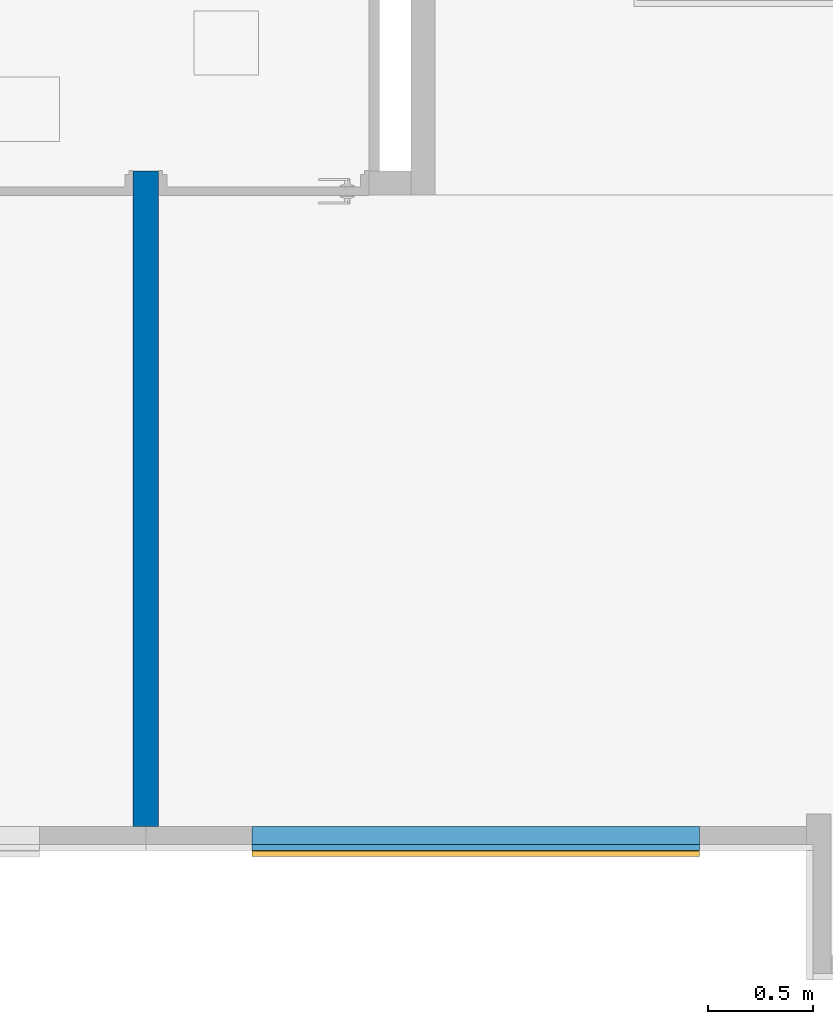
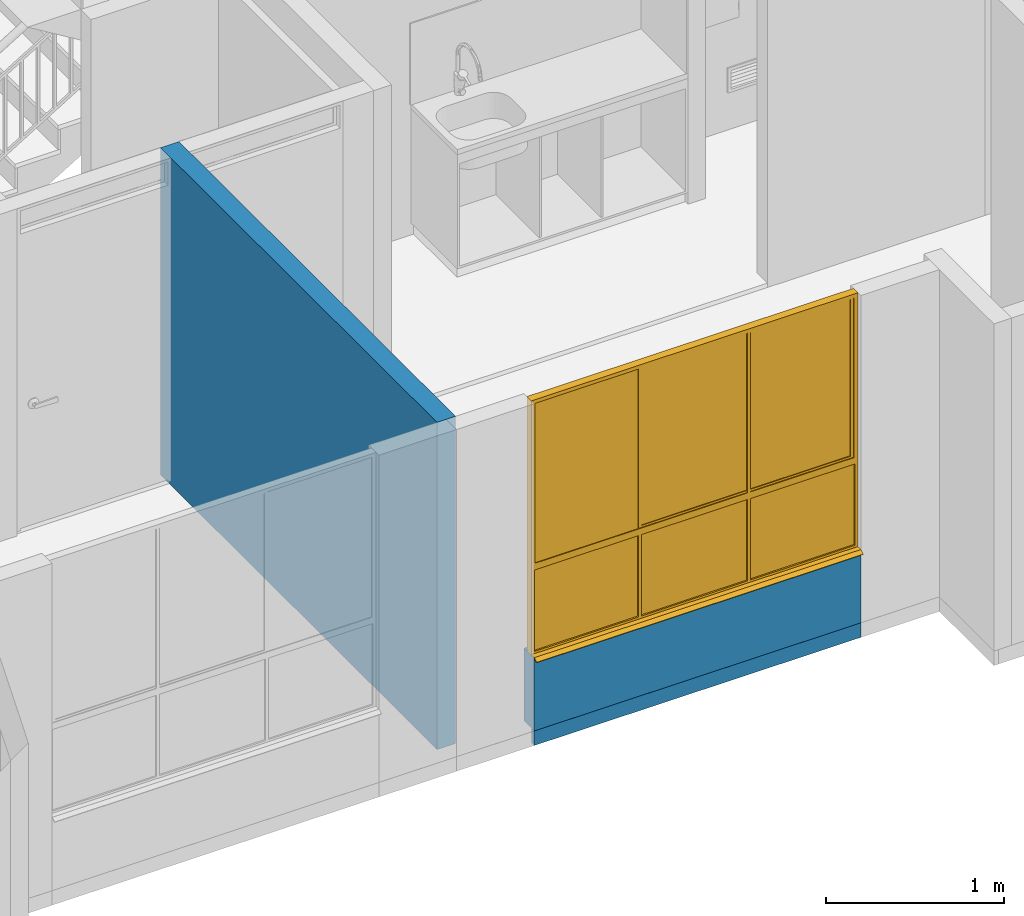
# One storey, part 9 of 48: 3 walls, 1 window, 1 opening.
"""IFC4 building model written with IfcOpenShell, lengths in metres."""

from ifc_helpers import new_model, entity, si_unit, converted_unit, derived_unit, direction, frame, origin, place, context, subcontext, project, spatial, indexed_curve, outline, extrude, polygons, source, transform, mapped, material, constituent, constituent_set, type_object, type_shapes, element, fill, save


model = new_model("IFC4")

# Units and contexts
model_context = context("Model", 3, precision=1e-05, world=origin(), true_north=direction((6.123031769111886e-17, 1.0)))
body_context = subcontext(model_context, "Body", "Model", "MODEL_VIEW")
ifc_project = project(units=[si_unit("LENGTHUNIT", "METRE"), si_unit("AREAUNIT", "SQUARE_METRE"), si_unit("VOLUMEUNIT", "CUBIC_METRE"), converted_unit("PLANEANGLEUNIT", "DEGREE", entity("IfcRatioMeasure", 0.017453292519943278), si_unit("PLANEANGLEUNIT", "RADIAN"), dimensions=[0, 0, 0, 0, 0, 0, 0]), si_unit("MASSUNIT", "GRAM", prefix="KILO"), derived_unit("MASSDENSITYUNIT", [(si_unit("MASSUNIT", "GRAM", prefix="KILO"), 1), (si_unit("LENGTHUNIT", "METRE"), -3)]), derived_unit("IONCONCENTRATIONUNIT", [(si_unit("MASSUNIT", "GRAM", prefix="KILO"), 1), (si_unit("LENGTHUNIT", "METRE"), -3)]), derived_unit("MOMENTOFINERTIAUNIT", [(si_unit("LENGTHUNIT", "METRE"), 4)]), si_unit("TIMEUNIT", "SECOND"), si_unit("FREQUENCYUNIT", "HERTZ"), si_unit("THERMODYNAMICTEMPERATUREUNIT", "DEGREE_CELSIUS"), derived_unit("THERMALTRANSMITTANCEUNIT", [(si_unit("MASSUNIT", "GRAM", prefix="KILO"), 1), (si_unit("THERMODYNAMICTEMPERATUREUNIT", "KELVIN"), -1), (si_unit("TIMEUNIT", "SECOND"), -3)]), derived_unit("THERMALCONDUCTANCEUNIT", [(si_unit("MASSUNIT", "GRAM", prefix="KILO"), 1), (si_unit("THERMODYNAMICTEMPERATUREUNIT", "KELVIN"), -1), (si_unit("TIMEUNIT", "SECOND"), -3), (si_unit("LENGTHUNIT", "METRE"), 1)]), derived_unit("VOLUMETRICFLOWRATEUNIT", [(si_unit("LENGTHUNIT", "METRE"), 3), (si_unit("TIMEUNIT", "SECOND"), -1)]), derived_unit("MASSFLOWRATEUNIT", [(si_unit("MASSUNIT", "GRAM", prefix="KILO"), 1), (si_unit("TIMEUNIT", "SECOND"), -1)]), derived_unit("ROTATIONALFREQUENCYUNIT", [(si_unit("TIMEUNIT", "SECOND"), -1)]), si_unit("ELECTRICCURRENTUNIT", "AMPERE"), si_unit("ELECTRICVOLTAGEUNIT", "VOLT"), si_unit("POWERUNIT", "WATT"), si_unit("FORCEUNIT", "NEWTON", prefix="KILO"), si_unit("ILLUMINANCEUNIT", "LUX"), si_unit("LUMINOUSFLUXUNIT", "LUMEN"), si_unit("LUMINOUSINTENSITYUNIT", "CANDELA"), derived_unit("USERDEFINED", [(si_unit("MASSUNIT", "GRAM", prefix="KILO"), -1), (si_unit("LENGTHUNIT", "METRE"), -2), (si_unit("TIMEUNIT", "SECOND"), 3), (si_unit("LUMINOUSFLUXUNIT", "LUMEN"), 1)]), derived_unit("USERDEFINED", [(si_unit("MASSUNIT", "GRAM", prefix="KILO"), 1), (si_unit("TIMEUNIT", "SECOND"), -3), (si_unit("LENGTHUNIT", "METRE"), 3), (si_unit("ELECTRICCURRENTUNIT", "AMPERE"), -2)]), derived_unit("SOUNDPOWERUNIT", [(si_unit("MASSUNIT", "GRAM", prefix="KILO"), 1), (si_unit("TIMEUNIT", "SECOND"), -3), (si_unit("LENGTHUNIT", "METRE"), 2)]), derived_unit("SOUNDPRESSUREUNIT", [(si_unit("MASSUNIT", "GRAM", prefix="KILO"), 1), (si_unit("LENGTHUNIT", "METRE"), -1), (si_unit("TIMEUNIT", "SECOND"), -2)]), derived_unit("LINEARVELOCITYUNIT", [(si_unit("LENGTHUNIT", "METRE"), 1), (si_unit("TIMEUNIT", "SECOND"), -1)]), si_unit("PRESSUREUNIT", "PASCAL"), derived_unit("USERDEFINED", [(si_unit("MASSUNIT", "GRAM", prefix="KILO"), 1), (si_unit("LENGTHUNIT", "METRE"), -2), (si_unit("TIMEUNIT", "SECOND"), -2)]), derived_unit("LINEARFORCEUNIT", [(si_unit("MASSUNIT", "GRAM", prefix="KILO"), 1), (si_unit("TIMEUNIT", "SECOND"), -2)]), derived_unit("PLANARFORCEUNIT", [(si_unit("MASSUNIT", "GRAM", prefix="KILO"), 1), (si_unit("LENGTHUNIT", "METRE"), -1), (si_unit("TIMEUNIT", "SECOND"), -2)]), derived_unit("SPECIFICHEATCAPACITYUNIT", [(si_unit("THERMODYNAMICTEMPERATUREUNIT", "KELVIN"), -1), (si_unit("LENGTHUNIT", "METRE"), 2), (si_unit("TIMEUNIT", "SECOND"), -2)]), derived_unit("HEATINGVALUEUNIT", [(si_unit("LENGTHUNIT", "METRE"), 2), (si_unit("TIMEUNIT", "SECOND"), -2)]), derived_unit("VAPORPERMEABILITYUNIT", [(si_unit("LENGTHUNIT", "METRE"), -1), (si_unit("TIMEUNIT", "SECOND"), 1)]), derived_unit("DYNAMICVISCOSITYUNIT", [(si_unit("MASSUNIT", "GRAM", prefix="KILO"), 1), (si_unit("TIMEUNIT", "SECOND"), -1), (si_unit("LENGTHUNIT", "METRE"), -1)]), derived_unit("THERMALEXPANSIONCOEFFICIENTUNIT", [(si_unit("THERMODYNAMICTEMPERATUREUNIT", "KELVIN"), -1)]), derived_unit("MODULUSOFELASTICITYUNIT", [(si_unit("MASSUNIT", "GRAM", prefix="KILO"), 1), (si_unit("LENGTHUNIT", "METRE"), -1), (si_unit("TIMEUNIT", "SECOND"), -2)]), derived_unit("ISOTHERMALMOISTURECAPACITYUNIT", [(si_unit("LENGTHUNIT", "METRE"), 3), (si_unit("MASSUNIT", "GRAM", prefix="KILO"), -1)]), derived_unit("MOISTUREDIFFUSIVITYUNIT", [(si_unit("TIMEUNIT", "SECOND"), -1), (si_unit("LENGTHUNIT", "METRE"), 2)])], contexts=[model_context])

# Site, building, storey
site_placement = place(None, origin())
site = spatial("IfcSite", under=ifc_project, at=site_placement, Name="Default", CompositionType="ELEMENT")
building_placement = place(site_placement, origin())
building = spatial("IfcBuilding", under=site, at=building_placement, CompositionType="ELEMENT")
storey_placement = place(building_placement, frame((0.0, 0.0, 7.050000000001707)))
storey = spatial("IfcBuildingStorey", under=building, at=storey_placement, Name="Nivel 4", CompositionType="ELEMENT", Elevation=7.050000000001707)

# Wall
ifc_material_1 = material(Name="Concreto (Aire)", Category="Materials")
wall_type_1 = type_object("IfcWallType", Name="Basic Wall:B2010 - 0.12m - Muro interior en concreto", PredefinedType="STANDARD")
wall_1_placement = place(storey_placement, frame((9.322500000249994, -9.024999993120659, 0.0), z_axis=(0.0, 0.0, 1.0), x_axis=(0.0, -1.0, 0.0)))
element("IfcWall", 1, at=wall_1_placement, inside=storey, type_object=wall_type_1, material=ifc_material_1, Name="Basic Wall:B2010 - 0.12m - Muro interior en concreto", ObjectType="Basic Wall:B2010 - 0.12m - Muro interior en concreto", PredefinedType="NOTDEFINED", context=body_context, shape_type="SweptSolid", body=[
    extrude(outline(indexed_curve([(3.1150000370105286, 0.06000000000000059), (-1.0719303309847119e-16, 0.060000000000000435), (1.0719303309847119e-16, -0.060000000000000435), (3.1150000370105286, -0.06000000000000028), (3.1150000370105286, 0.06000000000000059)], self_intersect=False)), origin(), (0.0, 0.0, 1.0), 2.2500000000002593),
])

# Wall, opening, window
ifc_material_2 = material(Name="Ladrillo claro (Aire)", Category="Materials")
wall_type_2 = type_object("IfcWallType", Name="Basic Wall:B2010 - 0.115m - Muro exterior en mampostería - Ladrillo", PredefinedType="STANDARD")
wall_2_placement = place(storey_placement, frame((11.952500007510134, -12.197500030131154, 0.0), z_axis=(0.0, 0.0, 1.0), x_axis=(-1.0, 0.0, 0.0)))
wall_2 = element("IfcWall", 2, at=wall_2_placement, inside=storey, type_object=wall_type_2, material=ifc_material_2, Name="Basic Wall:B2010 - 0.115m - Muro exterior en mampostería - Ladrillo", ObjectType="Basic Wall:B2010 - 0.115m - Muro exterior en mampostería - Ladrillo", PredefinedType="NOTDEFINED", context=body_context, shape_type="Tessellation", body=[
    polygons([(1.6266871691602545e-15, -0.057499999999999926, 0.0), (2.1249999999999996, -0.057499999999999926, 0.0), (2.1249999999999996, -0.057499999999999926, 0.5000000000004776), (1.6266871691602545e-15, -0.057499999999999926, 0.5000000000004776), (2.1249999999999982, 0.057499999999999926, 0.0), (6.252360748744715e-16, 0.057499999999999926, 0.0), (6.252360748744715e-16, 0.057499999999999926, 0.5000000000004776), (2.1249999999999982, 0.057499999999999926, 0.5000000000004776)], [[[1, 2, 3, 4]], [[5, 6, 7, 8]], [[2, 1, 6, 5]], [[2, 5, 8, 3]], [[6, 1, 4, 7]], [[4, 3, 8, 7]]], closed=True),
])
opening_placement = place(wall_2_placement, frame((0.0, -0.057499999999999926, 0.5)))
opening = element("IfcOpeningElement", 3, at=opening_placement, cuts=wall_2, Name="B2020 - 6c Ventana corrediza - Aluminio + Vidrio:B2020 -2.13m x 1.750m - Ventana corrediza 2C - Aluminio + Vidrio:1", PredefinedType="OPENING", context=body_context, shape_type="SweptSolid", body=[
    extrude(outline(indexed_curve([(0.0, 2.125), (0.0, 0.0), (1.7499999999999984, 0.0), (1.7499999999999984, 2.125), (0.0, 2.125)], self_intersect=False)), frame((0.0, 0.0, 0.0), z_axis=(0.0, 1.0, 0.0), x_axis=(0.0, 0.0, 1.0)), (0.0, 0.0, 1.0), 0.115),
])
ifc_material_3 = material(Name="Aluminio", Category="Materials")
ifc_constituent_1 = constituent(ifc_material_3, Name="Aluminio", Category="Materials")
ifc_material_4 = material(Name="Vidrio", Category="Materials")
ifc_constituent_2 = constituent(ifc_material_4, Name="Vidrio", Category="Materials")
ifc_material_5 = material(Name="Alfajía en aluminio", Category="Materials")
ifc_constituent_3 = constituent(ifc_material_5, Name="Alfajía en aluminio", Category="Materials")
ifc_constituent_set_1 = constituent_set(constituents=[ifc_constituent_1, ifc_constituent_2, ifc_constituent_3])
ifc_constituent_4 = constituent(ifc_material_3, Name="Aluminio", Category="Materials")
ifc_constituent_5 = constituent(ifc_material_4, Name="Vidrio", Category="Materials")
ifc_constituent_6 = constituent(ifc_material_5, Name="Alfajía en aluminio", Category="Materials")
ifc_constituent_set_2 = constituent_set(constituents=[ifc_constituent_4, ifc_constituent_5, ifc_constituent_6])
window_type = type_object("IfcWindowType", Name="B2020 - 6c Ventana corrediza - Aluminio + Vidrio:B2020 -2.13m x 1.750m - Ventana corrediza 2C - Aluminio + Vidrio", PartitioningType="NOTDEFINED", PredefinedType="WINDOW", material=ifc_constituent_set_2)
shared_shape = source(origin(), body_context, "Body", "Tessellation", [
    polygons([(1.3916666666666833, 0.03749999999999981, 1.7249999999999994), (1.3916666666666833, 0.03749999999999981, 0.6249999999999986), (1.391666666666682, 0.032499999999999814, 0.6249999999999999), (1.3916666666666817, 0.032499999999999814, 1.7249999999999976), (-0.6833333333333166, 0.03249999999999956, 0.6249999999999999), (-0.6833333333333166, 0.032499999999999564, 1.7249999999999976), (-0.7083333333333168, 0.03249999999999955, 0.5999999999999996), (1.4166666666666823, 0.032499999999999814, 0.5999999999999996), (1.4166666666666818, 0.032499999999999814, 1.749999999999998), (-0.7083333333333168, 0.03249999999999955, 1.749999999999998), (-0.6833333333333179, 0.03749999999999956, 0.6249999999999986), (-0.6833333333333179, 0.03749999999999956, 1.7249999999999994), (-0.6883333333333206, 0.03749999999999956, 0.6199999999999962), (-0.6883333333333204, 0.03749999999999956, 1.7300000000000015), (1.3966666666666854, 0.03749999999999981, 1.7300000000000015), (1.3966666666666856, 0.03749999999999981, 0.6199999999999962), (1.3966666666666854, 0.05499999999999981, 1.7300000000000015), (1.3966666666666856, 0.05499999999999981, 0.6199999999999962), (-0.6883333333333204, 0.05499999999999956, 0.6199999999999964), (-0.6883333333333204, 0.05499999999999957, 1.7300000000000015), (-0.6833333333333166, 0.05499999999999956, 0.6249999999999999), (-0.6833333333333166, 0.05499999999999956, 1.7249999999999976), (1.3916666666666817, 0.05499999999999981, 1.7249999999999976), (1.391666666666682, 0.05499999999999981, 0.6249999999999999), (1.3916666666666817, 0.05999999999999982, 1.7249999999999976), (1.391666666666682, 0.05999999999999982, 0.6249999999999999), (-0.6833333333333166, 0.059999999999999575, 0.6249999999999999), (-0.6833333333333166, 0.059999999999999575, 1.7249999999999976), (-0.7033333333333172, 0.05999999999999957, 0.6049999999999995), (-0.7033333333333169, 0.05999999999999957, 1.744999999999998), (1.411666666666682, 0.05999999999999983, 1.744999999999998), (1.4116666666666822, 0.05999999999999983, 0.6049999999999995), (1.411666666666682, 0.07749999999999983, 1.744999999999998), (1.4116666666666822, 0.07749999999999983, 0.6049999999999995), (-0.7033333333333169, 0.07749999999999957, 0.6049999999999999), (-0.7033333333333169, 0.07749999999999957, 1.744999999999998), (-0.6833333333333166, 0.07749999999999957, 0.6249999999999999), (-0.6833333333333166, 0.07749999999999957, 1.7249999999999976), (1.3916666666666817, 0.07749999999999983, 1.7249999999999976), (1.391666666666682, 0.07749999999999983, 0.6249999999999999), (1.3916666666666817, 0.08249999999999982, 1.7249999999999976), (1.391666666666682, 0.08249999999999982, 0.6249999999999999), (-0.6833333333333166, 0.08249999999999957, 0.6249999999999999), (-0.6833333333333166, 0.08249999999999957, 1.7249999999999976), (-0.7083333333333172, 0.08249999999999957, 0.5999999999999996), (-0.7083333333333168, 0.08249999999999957, 1.749999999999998), (1.4166666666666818, 0.08249999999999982, 1.749999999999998), (1.4166666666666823, 0.08249999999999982, 0.5999999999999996)], [[[1, 2, 3, 4]], [[7, 8, 9, 10], [5, 6, 4, 3]], [[2, 11, 5, 3]], [[13, 14, 15, 16], [11, 2, 1, 12]], [[17, 18, 16, 15]], [[18, 19, 13, 16]], [[19, 18, 17, 20], [21, 22, 23, 24]], [[25, 26, 24, 23]], [[26, 27, 21, 24]], [[29, 30, 31, 32], [27, 26, 25, 28]], [[33, 34, 32, 31]], [[34, 35, 29, 32]], [[35, 34, 33, 36], [37, 38, 39, 40]], [[41, 42, 40, 39]], [[42, 43, 37, 40]], [[45, 46, 47, 48], [43, 42, 41, 44]], [[9, 8, 48, 47]], [[8, 7, 45, 48]], [[11, 12, 6, 5]], [[19, 20, 14, 13]], [[27, 28, 22, 21]], [[35, 36, 30, 29]], [[43, 44, 38, 37]], [[7, 10, 46, 45]], [[12, 1, 4, 6]], [[20, 17, 15, 14]], [[28, 25, 23, 22]], [[36, 33, 31, 30]], [[44, 41, 39, 38]], [[10, 9, 47, 46]]], closed=True),
    polygons([(-0.009999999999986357, 0.08249999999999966, 0.6249999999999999), (0.010000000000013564, 0.08249999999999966, 0.6249999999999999), (0.010000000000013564, 0.05999999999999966, 0.6249999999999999), (-0.009999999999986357, 0.05999999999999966, 0.6249999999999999), (-0.009999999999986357, 0.08249999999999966, 1.7249999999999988), (-0.009999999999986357, 0.05999999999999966, 1.7249999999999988), (0.010000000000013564, 0.05999999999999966, 1.7249999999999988), (0.010000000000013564, 0.08249999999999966, 1.7249999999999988)], [[[1, 2, 3, 4]], [[5, 1, 4, 6]], [[6, 4, 3, 7]], [[7, 3, 2, 8]], [[8, 2, 1, 5]], [[5, 6, 7, 8]]], closed=True),
    polygons([(0.7108333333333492, 0.06674999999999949, 1.7299999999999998), (-0.6833333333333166, 0.06674999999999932, 1.7299999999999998), (-0.6833333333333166, 0.06674999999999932, 0.6174999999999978), (0.7108333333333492, 0.06674999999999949, 0.6174999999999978), (0.7108333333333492, 0.0707499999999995, 0.6174999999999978), (0.7108333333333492, 0.0707499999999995, 1.7299999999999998), (-0.6833333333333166, 0.07074999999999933, 0.6174999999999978), (-0.6833333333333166, 0.07074999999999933, 1.7299999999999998)], [[[1, 2, 3, 4]], [[4, 5, 6, 1]], [[3, 7, 5, 4]], [[2, 8, 7, 3]], [[6, 5, 7, 8]], [[1, 6, 8, 2]]], closed=True),
    polygons([(0.7108333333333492, 0.07074999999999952, 0.6225000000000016), (-0.6783333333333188, 0.07074999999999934, 0.6225000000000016), (-0.6783333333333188, 0.06674999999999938, 0.6225000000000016), (0.7108333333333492, 0.06674999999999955, 0.6225000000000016), (-0.6783333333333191, 0.07074999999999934, 1.730000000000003), (-0.6783333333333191, 0.06674999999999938, 1.730000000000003), (0.7108333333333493, 0.06674999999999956, 1.730000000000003), (-0.6633333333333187, 0.06674999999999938, 1.7150000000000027), (-0.6633333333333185, 0.06674999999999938, 0.637500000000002), (0.695833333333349, 0.06674999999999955, 0.637500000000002), (0.695833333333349, 0.06674999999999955, 1.7150000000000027), (0.7108333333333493, 0.07074999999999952, 1.730000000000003), (-0.6633333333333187, 0.07074999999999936, 0.637500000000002), (-0.6633333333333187, 0.07074999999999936, 1.7150000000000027), (0.695833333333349, 0.07074999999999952, 1.7150000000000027), (0.695833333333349, 0.07074999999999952, 0.6375000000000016), (0.695833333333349, 0.07549999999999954, 0.637500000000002), (-0.6633333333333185, 0.07549999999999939, 0.6375000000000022), (-0.6633333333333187, 0.07549999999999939, 1.7150000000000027), (0.695833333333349, 0.07549999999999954, 1.7150000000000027), (-0.6833333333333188, 0.07549999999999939, 0.6175000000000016), (-0.683333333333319, 0.07549999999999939, 1.735000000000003), (0.7158333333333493, 0.07549999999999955, 1.735000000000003), (0.7158333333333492, 0.07549999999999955, 0.6175000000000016), (0.7158333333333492, 0.06199999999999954, 0.6175000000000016), (-0.6833333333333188, 0.061999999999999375, 0.6175000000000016), (-0.683333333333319, 0.061999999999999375, 1.735000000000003), (0.7158333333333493, 0.06199999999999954, 1.735000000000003), (-0.6633333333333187, 0.06199999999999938, 0.637500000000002), (-0.6633333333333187, 0.06199999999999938, 1.7150000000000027), (0.695833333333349, 0.06199999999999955, 1.7150000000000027), (0.695833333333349, 0.06199999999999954, 0.6375000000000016)], [[[1, 2, 3, 4]], [[2, 5, 6, 3]], [[3, 6, 7, 4], [8, 9, 10, 11]], [[5, 2, 1, 12], [13, 14, 15, 16]], [[17, 18, 13, 16]], [[18, 19, 14, 13]], [[21, 22, 23, 24], [19, 18, 17, 20]], [[25, 26, 21, 24]], [[26, 27, 22, 21]], [[27, 26, 25, 28], [29, 30, 31, 32]], [[10, 9, 29, 32]], [[9, 8, 30, 29]], [[12, 1, 4, 7]], [[20, 17, 16, 15]], [[28, 25, 24, 23]], [[11, 10, 32, 31]], [[5, 12, 7, 6]], [[19, 20, 15, 14]], [[27, 28, 23, 22]], [[8, 11, 31, 30]]], closed=True),
    polygons([(1.3916666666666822, 0.04424999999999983, 1.7299999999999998), (0.7033333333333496, 0.04424999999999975, 1.7299999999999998), (0.7033333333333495, 0.04424999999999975, 0.6174999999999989), (1.391666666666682, 0.04424999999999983, 0.6174999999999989), (1.391666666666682, 0.04824999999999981, 0.6174999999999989), (1.3916666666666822, 0.04824999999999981, 1.7299999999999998), (0.7033333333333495, 0.048249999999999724, 0.6174999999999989), (0.7033333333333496, 0.048249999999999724, 1.7299999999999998)], [[[1, 2, 3, 4]], [[4, 5, 6, 1]], [[3, 7, 5, 4]], [[2, 8, 7, 3]], [[6, 5, 7, 8]], [[1, 6, 8, 2]]], closed=True),
    polygons([(1.391666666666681, 0.04824999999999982, 0.6224999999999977), (0.7033333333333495, 0.04824999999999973, 0.6224999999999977), (0.7033333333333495, 0.044249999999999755, 0.6224999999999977), (1.391666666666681, 0.04424999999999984, 0.6224999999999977), (0.7033333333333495, 0.04824999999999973, 1.729999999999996), (0.7033333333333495, 0.044249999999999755, 1.729999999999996), (1.391666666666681, 0.04424999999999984, 1.729999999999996), (0.7183333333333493, 0.044249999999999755, 1.714999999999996), (0.7183333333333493, 0.044249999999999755, 0.6374999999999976), (1.3766666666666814, 0.04424999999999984, 0.6374999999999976), (1.3766666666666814, 0.04424999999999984, 1.714999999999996), (1.391666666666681, 0.04824999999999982, 1.729999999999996), (0.7183333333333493, 0.04824999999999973, 0.6374999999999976), (0.7183333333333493, 0.04824999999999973, 1.714999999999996), (1.3766666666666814, 0.04824999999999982, 1.714999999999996), (1.3766666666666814, 0.04824999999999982, 0.6374999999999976), (1.3766666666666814, 0.052999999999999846, 0.6374999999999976), (0.7183333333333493, 0.05299999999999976, 0.6374999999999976), (0.7183333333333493, 0.05299999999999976, 1.714999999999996), (1.3766666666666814, 0.052999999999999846, 1.714999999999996), (0.6983333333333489, 0.052999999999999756, 0.6174999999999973), (0.6983333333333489, 0.05299999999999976, 1.7349999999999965), (1.3966666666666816, 0.052999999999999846, 1.7349999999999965), (1.3966666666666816, 0.052999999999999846, 0.6174999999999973), (1.3966666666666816, 0.03949999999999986, 0.6174999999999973), (0.6983333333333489, 0.03949999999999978, 0.6174999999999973), (0.6983333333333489, 0.03949999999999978, 1.7349999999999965), (1.3966666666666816, 0.03949999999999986, 1.7349999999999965), (0.7183333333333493, 0.039499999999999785, 0.6374999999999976), (0.7183333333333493, 0.03949999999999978, 1.714999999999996), (1.3766666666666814, 0.039499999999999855, 1.714999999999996), (1.3766666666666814, 0.039499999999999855, 0.6374999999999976)], [[[1, 2, 3, 4]], [[2, 5, 6, 3]], [[3, 6, 7, 4], [8, 9, 10, 11]], [[5, 2, 1, 12], [13, 14, 15, 16]], [[17, 18, 13, 16]], [[18, 19, 14, 13]], [[21, 22, 23, 24], [19, 18, 17, 20]], [[25, 26, 21, 24]], [[26, 27, 22, 21]], [[27, 26, 25, 28], [29, 30, 31, 32]], [[10, 9, 29, 32]], [[9, 8, 30, 29]], [[12, 1, 4, 7]], [[20, 17, 16, 15]], [[28, 25, 24, 23]], [[11, 10, 32, 31]], [[5, 12, 7, 6]], [[19, 20, 15, 14]], [[27, 28, 23, 22]], [[8, 11, 31, 30]]], closed=True),
    polygons([(-0.6883333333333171, 0.04424999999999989, 1.7299999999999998), (-0.6883333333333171, 0.04424999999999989, 0.6174999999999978), (1.3916666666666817, 0.04424999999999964, 0.6174999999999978), (1.3916666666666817, 0.04424999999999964, 1.7299999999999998), (1.3916666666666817, 0.04824999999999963, 0.6174999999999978), (1.3916666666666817, 0.04824999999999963, 1.7299999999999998), (-0.6883333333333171, 0.04824999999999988, 0.6174999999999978), (-0.6883333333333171, 0.04824999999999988, 1.7299999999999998)], [[[1, 2, 3, 4]], [[3, 5, 6, 4]], [[2, 7, 5, 3]], [[1, 8, 7, 2]], [[8, 6, 5, 7]], [[4, 6, 8, 1]]], closed=True),
    polygons([(1.3966666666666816, 0.06674999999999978, 1.7299999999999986), (-0.6883333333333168, 0.06674999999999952, 1.7299999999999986), (-0.6883333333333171, 0.06674999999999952, 0.6174999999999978), (1.3966666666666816, 0.06674999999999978, 0.6174999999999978), (1.3966666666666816, 0.07074999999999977, 0.6174999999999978), (1.3966666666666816, 0.07074999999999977, 1.7299999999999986), (-0.6883333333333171, 0.07074999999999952, 0.6174999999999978), (-0.6883333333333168, 0.07074999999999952, 1.7299999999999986)], [[[1, 2, 3, 4]], [[4, 5, 6, 1]], [[3, 7, 5, 4]], [[2, 8, 7, 3]], [[6, 5, 7, 8]], [[1, 6, 8, 2]]], closed=True),
    polygons([(1.3966666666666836, 0.06813901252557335, 0.5800000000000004), (-0.6883333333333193, 0.06813901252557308, 0.5800000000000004), (-0.6883333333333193, 0.06813901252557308, 0.019999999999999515), (1.3966666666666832, 0.06813901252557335, 0.019999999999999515), (1.3966666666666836, 0.07213901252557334, 0.5800000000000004), (1.3966666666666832, 0.07213901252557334, 0.019999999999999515), (-0.6883333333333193, 0.07213901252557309, 0.019999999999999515), (-0.6883333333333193, 0.07213901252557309, 0.5800000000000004)], [[[1, 2, 3, 4]], [[5, 6, 7, 8]], [[4, 6, 5, 1]], [[3, 7, 6, 4]], [[2, 8, 7, 3]], [[1, 5, 8, 2]]], closed=True),
    polygons([(-0.009999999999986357, 0.08250000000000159, 0.5799999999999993), (-0.009999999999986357, 0.03250000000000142, 0.5799999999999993), (0.010000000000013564, 0.03250000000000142, 0.5799999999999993), (0.010000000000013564, 0.08250000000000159, 0.5799999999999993), (-0.009999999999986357, 0.08250000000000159, 0.019999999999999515), (0.010000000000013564, 0.08250000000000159, 0.019999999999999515), (0.010000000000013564, 0.03250000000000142, 0.019999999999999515), (-0.009999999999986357, 0.03250000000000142, 0.019999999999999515)], [[[1, 2, 3, 4]], [[5, 6, 7, 8]], [[4, 6, 5, 1]], [[3, 7, 6, 4]], [[2, 8, 7, 3]], [[1, 5, 8, 2]]], closed=True),
    polygons([(1.4166666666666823, 0.08249999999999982, 2.707167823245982e-16), (-0.7083333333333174, 0.08249999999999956, 4.060751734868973e-16), (-0.7083333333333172, 0.08249999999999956, 0.5999999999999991), (1.4166666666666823, 0.08249999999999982, 0.5999999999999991), (0.6983333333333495, 0.08250000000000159, 0.5799999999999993), (-0.6883333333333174, 0.0825000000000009, 0.5799999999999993), (-0.6883333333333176, 0.0825000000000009, 0.020000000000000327), (0.6983333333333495, 0.08250000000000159, 0.01999999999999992), (0.7183333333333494, 0.08250000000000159, 0.01999999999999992), (1.3966666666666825, 0.08250000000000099, 0.020000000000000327), (1.3966666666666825, 0.08250000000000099, 0.5799999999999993), (0.7183333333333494, 0.08250000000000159, 0.5799999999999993), (0.7183333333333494, 0.03250000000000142, 0.5799999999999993), (0.7183333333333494, 0.03250000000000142, 0.01999999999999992), (1.4166666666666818, 0.03250000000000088, 0.5999999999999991), (-0.7083333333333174, 0.0325000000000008, 0.5999999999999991), (-0.7083333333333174, 0.0325000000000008, 4.060751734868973e-16), (1.4166666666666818, 0.03250000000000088, 4.060751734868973e-16), (1.3966666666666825, 0.032499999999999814, 0.5799999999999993), (1.3966666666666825, 0.032499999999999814, 0.020000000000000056), (0.6983333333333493, 0.03250000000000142, 0.01999999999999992), (-0.6883333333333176, 0.03249999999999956, 0.020000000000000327), (-0.6883333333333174, 0.03249999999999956, 0.5799999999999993), (0.6983333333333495, 0.03250000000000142, 0.5799999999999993)], [[[1, 2, 3, 4], [5, 6, 7, 8], [9, 10, 11, 12]], [[12, 13, 14, 9]], [[15, 16, 17, 18], [13, 19, 20, 14], [21, 22, 23, 24]], [[8, 21, 24, 5]], [[11, 10, 20, 19]], [[15, 18, 1, 4]], [[10, 9, 14, 20]], [[18, 17, 2, 1]], [[7, 6, 23, 22]], [[17, 16, 3, 2]], [[6, 5, 24, 23]], [[4, 3, 16, 15]], [[19, 13, 12, 11]], [[22, 21, 8, 7]]], closed=True),
    polygons([(0.6983333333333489, 0.07213901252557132, 0.5849999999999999), (-0.6883333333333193, 0.07213901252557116, 0.5849999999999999), (-0.6883333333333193, 0.06813901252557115, 0.5849999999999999), (0.6983333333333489, 0.06813901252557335, 0.5849999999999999), (0.6983333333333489, 0.07213901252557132, 0.019999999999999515), (0.6983333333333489, 0.06813901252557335, 0.019999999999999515), (-0.6883333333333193, 0.06813901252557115, 0.019999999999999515), (-0.6883333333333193, 0.07213901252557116, 0.019999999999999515)], [[[1, 2, 3, 4]], [[5, 6, 7, 8]], [[1, 5, 8, 2]], [[2, 8, 7, 3]], [[3, 7, 6, 4]], [[4, 6, 5, 1]]], closed=True),
    polygons([(1.4166666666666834, 0.11499999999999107, -4.060751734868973e-16), (1.416666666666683, 0.1409807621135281, -0.015000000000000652), (1.416666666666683, 0.14348076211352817, -0.010669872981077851), (1.4166666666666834, 0.11633974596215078, 0.0049999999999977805), (1.4166666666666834, 0.08249999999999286, 0.0049999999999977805), (1.4166666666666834, 0.08249999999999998, -4.060751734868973e-16), (-0.7083333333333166, 0.11499999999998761, -4.060751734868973e-16), (-0.7083333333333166, 0.08249999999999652, -4.060751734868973e-16), (-0.7083333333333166, 0.0824999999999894, 0.0049999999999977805), (-0.7083333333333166, 0.11633974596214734, 0.0049999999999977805), (-0.7083333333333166, 0.1434807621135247, -0.010669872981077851), (-0.7083333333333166, 0.14098076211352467, -0.015000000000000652)], [[[1, 2, 3, 4, 5, 6]], [[7, 8, 9, 10, 11, 12]], [[6, 8, 7, 1]], [[5, 9, 8, 6]], [[4, 10, 9, 5]], [[3, 11, 10, 4]], [[2, 12, 11, 3]], [[1, 7, 12, 2]]], closed=True),
    polygons([(0.7183333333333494, 0.07213901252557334, 0.5849999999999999), (0.7183333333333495, 0.06813901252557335, 0.5849999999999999), (1.3966666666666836, 0.06813901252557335, 0.5849999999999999), (1.3966666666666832, 0.07213901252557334, 0.5849999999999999), (0.7183333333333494, 0.07213901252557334, 0.019999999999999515), (1.3966666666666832, 0.07213901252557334, 0.019999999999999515), (1.3966666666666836, 0.06813901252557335, 0.019999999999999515), (0.7183333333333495, 0.06813901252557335, 0.019999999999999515)], [[[1, 2, 3, 4]], [[5, 6, 7, 8]], [[4, 6, 5, 1]], [[3, 7, 6, 4]], [[2, 8, 7, 3]], [[1, 5, 8, 2]]], closed=True),
])
type_shapes(window_type, [shared_shape])
window_placement = place(opening_placement, frame((0.7083333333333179, 0.0, 0.0)))
window = element("IfcWindow", 4, at=window_placement, inside=storey, type_object=window_type, material=ifc_constituent_set_1, Name="B2020 - 6c Ventana corrediza - Aluminio + Vidrio:B2020 -2.13m x 1.750m - Ventana corrediza 2C - Aluminio + Vidrio", ObjectType="B2020 - 6c Ventana corrediza - Aluminio + Vidrio:B2020 -2.13m x 1.750m - Ventana corrediza 2C - Aluminio + Vidrio", OverallHeight=1.7499999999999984, OverallWidth=2.125, PartitioningType="NOTDEFINED", PredefinedType="WINDOW", context=body_context, shape_type="MappedRepresentation", body=[
    mapped(shared_shape, transform((0.0, 0.0, 0.0), scale=1.0)),
])
fill(opening, window)

# Wall
ifc_material_6 = material(Name="LADRILLO CLARO", Category="Materials")
wall_type_3 = type_object("IfcWallType", Name="Basic Wall:B2010 - 0.03m - ME enchape  no estructural - Ladrillo", PredefinedType="STANDARD")
wall_3_placement = place(storey_placement, frame((9.827500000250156, -12.240000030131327, -0.10000000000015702)))
element("IfcWall", 5, at=wall_3_placement, inside=storey, type_object=wall_type_3, material=ifc_material_6, Name="Basic Wall:B2010 - 0.03m - ME enchape  no estructural - Ladrillo", ObjectType="Basic Wall:B2010 - 0.03m - ME enchape  no estructural - Ladrillo", PredefinedType="NOTDEFINED", context=body_context, shape_type="SweptSolid", body=[
    extrude(outline(indexed_curve([(2.125000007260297, 0.015000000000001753), (-5.1729321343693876e-17, 0.015000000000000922), (5.1729321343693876e-17, -0.015000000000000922), (2.125000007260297, -0.01500000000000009), (2.125000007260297, 0.015000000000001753)], self_intersect=False)), origin(), (0.0, 0.0, 1.0), 0.09999999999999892),
])

save(model, "model.ifc")
